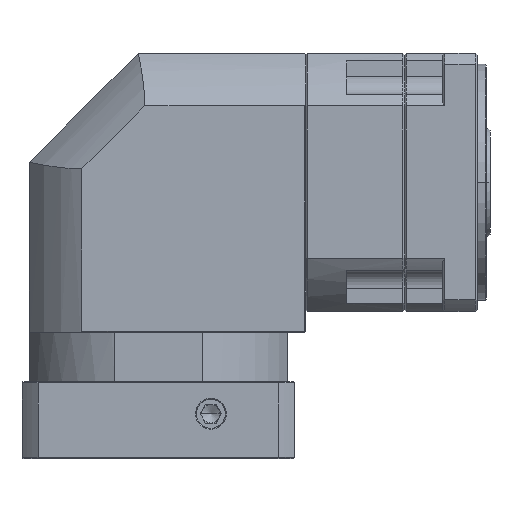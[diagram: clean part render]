
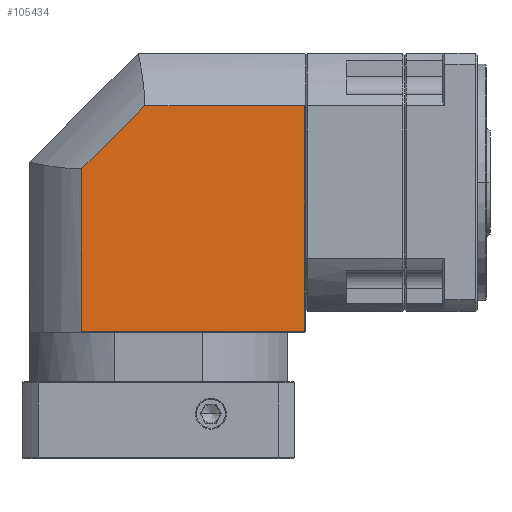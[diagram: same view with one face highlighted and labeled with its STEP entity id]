
A CAD part, top view. The second image highlights one B-rep face of the part: STEP entity #105434.
In plain terms, the highlighted planar face has unit normal (0, 0, 1).
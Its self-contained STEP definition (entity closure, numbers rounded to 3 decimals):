
#3387 = CARTESIAN_POINT ( 'NONE',  ( -283.992, 54.294, 43.084 ) ) ;
#15881 = EDGE_CURVE ( 'NONE', #91464, #153982, #22506, .T. ) ;
#19488 = LINE ( 'NONE', #93230, #126305 ) ;
#22223 = CARTESIAN_POINT ( 'NONE',  ( -249.32, 178.309, 43.084 ) ) ;
#22506 = LINE ( 'NONE', #92272, #110872 ) ;
#25735 = VECTOR ( 'NONE', #86429, 1000. ) ;
#30232 = LINE ( 'NONE', #116952, #143295 ) ;
#37773 = PLANE ( 'NONE',  #74960 ) ;
#41676 = DIRECTION ( 'NONE',  ( 0., 1., 0. ) ) ;
#47429 = EDGE_CURVE ( 'NONE', #162544, #79805, #116709, .T. ) ;
#51568 = DIRECTION ( 'NONE',  ( 0., 0., 1. ) ) ;
#56529 = EDGE_LOOP ( 'NONE', ( #126939, #107868, #98990, #98771, #124305 ) ) ;
#57083 = CARTESIAN_POINT ( 'NONE',  ( -161.278, 54.294, 43.084 ) ) ;
#74960 = AXIS2_PLACEMENT_3D ( 'NONE', #77948, #51568, #144033 ) ;
#77948 = CARTESIAN_POINT ( 'NONE',  ( -236.878, 130.544, 43.084 ) ) ;
#79805 = VERTEX_POINT ( 'NONE', #93788 ) ;
#81704 = VECTOR ( 'NONE', #144527, 1000. ) ;
#86429 = DIRECTION ( 'NONE',  ( 0., -1., 0. ) ) ;
#91464 = VERTEX_POINT ( 'NONE', #57083 ) ;
#92272 = CARTESIAN_POINT ( 'NONE',  ( -236.878, 54.294, 43.084 ) ) ;
#92836 = DIRECTION ( 'NONE',  ( -1., 0., 0. ) ) ;
#93230 = CARTESIAN_POINT ( 'NONE',  ( -130.59, 297.038, 43.084 ) ) ;
#93788 = CARTESIAN_POINT ( 'NONE',  ( -161.278, 178.309, 43.084 ) ) ;
#97933 = EDGE_CURVE ( 'NONE', #79805, #91464, #128430, .T. ) ;
#98771 = ORIENTED_EDGE ( 'NONE', *, *, #47429, .F. ) ;
#98990 = ORIENTED_EDGE ( 'NONE', *, *, #97933, .F. ) ;
#103203 = CARTESIAN_POINT ( 'NONE',  ( -506.353, 178.309, 43.084 ) ) ;
#105434 = ADVANCED_FACE ( 'NONE', ( #111780 ), #37773, .T. ) ;
#107868 = ORIENTED_EDGE ( 'NONE', *, *, #15881, .F. ) ;
#110872 = VECTOR ( 'NONE', #92836, 1000. ) ;
#111780 = FACE_OUTER_BOUND ( 'NONE', #56529, .T. ) ;
#116709 = LINE ( 'NONE', #103203, #81704 ) ;
#116952 = CARTESIAN_POINT ( 'NONE',  ( -283.992, 412.092, 43.084 ) ) ;
#119651 = DIRECTION ( 'NONE',  ( 0.707, 0.707, 0. ) ) ;
#122096 = CARTESIAN_POINT ( 'NONE',  ( -283.992, 143.636, 43.084 ) ) ;
#124305 = ORIENTED_EDGE ( 'NONE', *, *, #133992, .F. ) ;
#126305 = VECTOR ( 'NONE', #119651, 1000. ) ;
#126939 = ORIENTED_EDGE ( 'NONE', *, *, #166389, .F. ) ;
#128430 = LINE ( 'NONE', #150231, #25735 ) ;
#133992 = EDGE_CURVE ( 'NONE', #154772, #162544, #19488, .T. ) ;
#143295 = VECTOR ( 'NONE', #41676, 1000. ) ;
#144033 = DIRECTION ( 'NONE',  ( 1., 0., 0. ) ) ;
#144527 = DIRECTION ( 'NONE',  ( 1., 0., 0. ) ) ;
#150231 = CARTESIAN_POINT ( 'NONE',  ( -161.278, 130.544, 43.084 ) ) ;
#153982 = VERTEX_POINT ( 'NONE', #3387 ) ;
#154772 = VERTEX_POINT ( 'NONE', #122096 ) ;
#162544 = VERTEX_POINT ( 'NONE', #22223 ) ;
#166389 = EDGE_CURVE ( 'NONE', #153982, #154772, #30232, .T. ) ;
